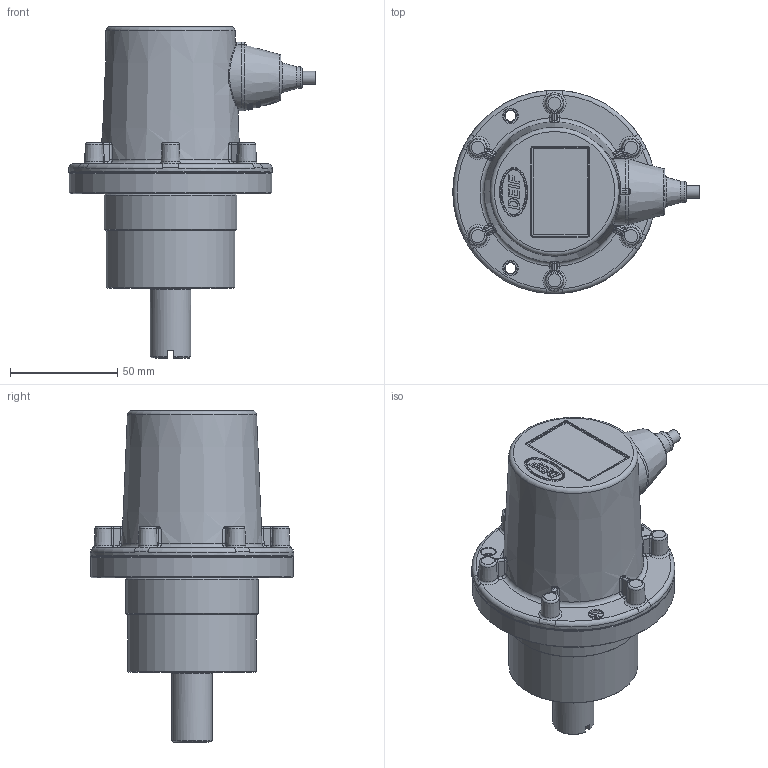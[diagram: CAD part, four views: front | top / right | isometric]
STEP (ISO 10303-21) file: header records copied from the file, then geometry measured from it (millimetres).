
FILE_DESCRIPTION(/* description */ (''),/* implementation_level */ '2;1');
FILE_NAME(/* name */ 'RTX800_Customer file_without bracket.stp',/* time_stamp */ '2026-06-01T10:21:11+02:00',/* author */ ('euh'),/* organization */ (''),/* preprocessor_version */ 'ST-DEVELOPER v20',/* originating_system */ 'Autodesk Inventor 2023',/* authorisation */ '');
FILE_SCHEMA (('AUTOMOTIVE_DESIGN { 1 0 10303 214 3 1 1 }'));
Products named in the file (16): RTX800_Customer file_without bracket.iam; 1121300019; 1101510015; 1100510127; 1129170005; 1134990007; 1135090401; 1121270001; 1120030007; 4154000251; 1134510015; 1135090301; 1134510016; 1135093501; 1129150083; RTX800_wire for sensor
Assembly tree (26 placements, depth 2):
  RTX800_Customer file_without bracket.iam
    1121300019
    1101510015
    1100510127
    1129170005
    1134990007
    1135090401  x4
    1121270001
    1120030007
    4154000251
    1134510015
    1135090301  x4
    1134510016
    1135093501  x6
    1129150083
    RTX800_wire for sensor
Bounding box: 114.96 x 94.91 x 154.8 mm (x, y, z)
Volume: 241634 mm3; surface area: 110333.8 mm2
Topology: 30 solids, 30 shells, 2297 faces, 5995 edges, 3888 vertices
Faces by surface type: bspline 933, plane 590, cylinder 325, cone 297, torus 130, sphere 22
Full cylindrical faces by diameter (mm): 3 x5, 3.2 x4, 3.242 x4, 3.5 x6, 4 x4, 4.2 x6, 4.5 x5, 4.6 x1, 4.917 x3, 5.5 x4, 6 x2, 6.9 x1, 7 x7, 8.1 x6, 8.4 x4, 9 x1, 10 x1, 14.3 x1, 15 x3, 18 x1, 18.6 x2, 19 x1, 21.762 x6, 22 x1, 22.5 x1, 25.333 x3, 26 x1, 28.667 x2, 28.95 x2, 29.094 x2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
Entity records: 87508 total; most frequent: CARTESIAN_POINT 43922, ORIENTED_EDGE 10314, DIRECTION 6178, EDGE_CURVE 5157, VERTEX_POINT 3364, EDGE_LOOP 2198, B_SPLINE_CURVE_WITH_KNOTS 2109, AXIS2_PLACEMENT_3D 2097
